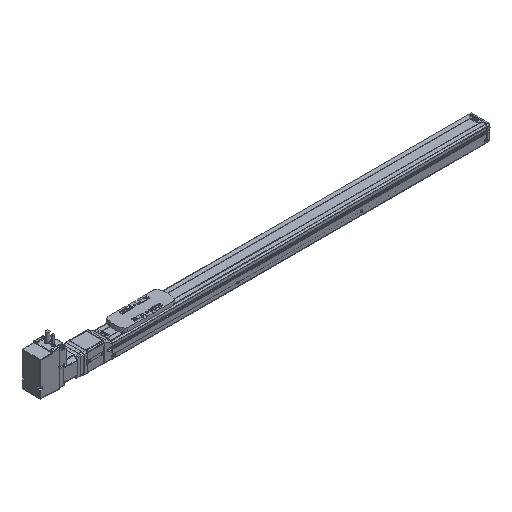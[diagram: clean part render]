
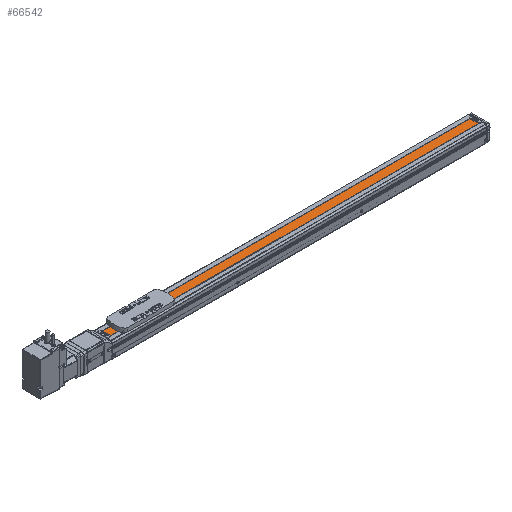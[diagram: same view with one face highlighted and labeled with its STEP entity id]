
A CAD part, isometric view. The second image highlights one B-rep face of the part: STEP entity #66542.
In plain terms, the highlighted planar face has unit normal (0, 0, 1) as drawn and (0, 1, 0) by its records, which use the part's own axes.
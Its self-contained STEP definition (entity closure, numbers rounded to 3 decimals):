
#66250 = PLANE('',#66251);
#66251 = AXIS2_PLACEMENT_3D('',#66252,#66253,#66254);
#66252 = CARTESIAN_POINT('',(-16.5,13.8,-10.));
#66253 = DIRECTION('',(1.,0.,0.));
#66254 = DIRECTION('',(0.,0.,-1.));
#66306 = PLANE('',#66307);
#66307 = AXIS2_PLACEMENT_3D('',#66308,#66309,#66310);
#66308 = CARTESIAN_POINT('',(-819.5,13.8,10.));
#66309 = DIRECTION('',(-1.,0.,0.));
#66310 = DIRECTION('',(0.,0.,1.));
#66542 = ADVANCED_FACE('',(#66543),#66557,.T.);
#66543 = FACE_BOUND('',#66544,.T.);
#66544 = EDGE_LOOP('',(#66545,#66580,#66603,#66631));
#66545 = ORIENTED_EDGE('',*,*,#66546,.T.);
#66546 = EDGE_CURVE('',#66547,#66549,#66551,.T.);
#66547 = VERTEX_POINT('',#66548);
#66548 = CARTESIAN_POINT('',(-819.5,12.3,9.2));
#66549 = VERTEX_POINT('',#66550);
#66550 = CARTESIAN_POINT('',(-16.5,12.3,9.2));
#66551 = SURFACE_CURVE('',#66552,(#66556,#66568),.PCURVE_S1.);
#66552 = LINE('',#66553,#66554);
#66553 = CARTESIAN_POINT('',(-826.5,12.3,9.2));
#66554 = VECTOR('',#66555,1.);
#66555 = DIRECTION('',(1.,0.,0.));
#66556 = PCURVE('',#66557,#66562);
#66557 = PLANE('',#66558);
#66558 = AXIS2_PLACEMENT_3D('',#66559,#66560,#66561);
#66559 = CARTESIAN_POINT('',(-826.5,12.3,-18.034));
#66560 = DIRECTION('',(0.,1.,0.));
#66561 = DIRECTION('',(0.,-0.,1.));
#66562 = DEFINITIONAL_REPRESENTATION('',(#66563),#66567);
#66563 = LINE('',#66564,#66565);
#66564 = CARTESIAN_POINT('',(27.234,0.));
#66565 = VECTOR('',#66566,1.);
#66566 = DIRECTION('',(0.,1.));
#66567 = ( GEOMETRIC_REPRESENTATION_CONTEXT(2) 
PARAMETRIC_REPRESENTATION_CONTEXT() REPRESENTATION_CONTEXT('2D SPACE',''
  ) );
#66568 = PCURVE('',#66569,#66574);
#66569 = PLANE('',#66570);
#66570 = AXIS2_PLACEMENT_3D('',#66571,#66572,#66573);
#66571 = CARTESIAN_POINT('',(-826.5,11.1,9.2));
#66572 = DIRECTION('',(0.,0.,-1.));
#66573 = DIRECTION('',(0.,1.,0.));
#66574 = DEFINITIONAL_REPRESENTATION('',(#66575),#66579);
#66575 = LINE('',#66576,#66577);
#66576 = CARTESIAN_POINT('',(1.2,0.));
#66577 = VECTOR('',#66578,1.);
#66578 = DIRECTION('',(0.,1.));
#66579 = ( GEOMETRIC_REPRESENTATION_CONTEXT(2) 
PARAMETRIC_REPRESENTATION_CONTEXT() REPRESENTATION_CONTEXT('2D SPACE',''
  ) );
#66580 = ORIENTED_EDGE('',*,*,#66581,.T.);
#66581 = EDGE_CURVE('',#66549,#66582,#66584,.T.);
#66582 = VERTEX_POINT('',#66583);
#66583 = CARTESIAN_POINT('',(-16.5,12.3,-9.2));
#66584 = SURFACE_CURVE('',#66585,(#66589,#66596),.PCURVE_S1.);
#66585 = LINE('',#66586,#66587);
#66586 = CARTESIAN_POINT('',(-16.5,12.3,-18.034));
#66587 = VECTOR('',#66588,1.);
#66588 = DIRECTION('',(0.,0.,-1.));
#66589 = PCURVE('',#66557,#66590);
#66590 = DEFINITIONAL_REPRESENTATION('',(#66591),#66595);
#66591 = LINE('',#66592,#66593);
#66592 = CARTESIAN_POINT('',(0.,810.));
#66593 = VECTOR('',#66594,1.);
#66594 = DIRECTION('',(-1.,0.));
#66595 = ( GEOMETRIC_REPRESENTATION_CONTEXT(2) 
PARAMETRIC_REPRESENTATION_CONTEXT() REPRESENTATION_CONTEXT('2D SPACE',''
  ) );
#66596 = PCURVE('',#66250,#66597);
#66597 = DEFINITIONAL_REPRESENTATION('',(#66598),#66602);
#66598 = LINE('',#66599,#66600);
#66599 = CARTESIAN_POINT('',(8.034,-1.5));
#66600 = VECTOR('',#66601,1.);
#66601 = DIRECTION('',(1.,0.));
#66602 = ( GEOMETRIC_REPRESENTATION_CONTEXT(2) 
PARAMETRIC_REPRESENTATION_CONTEXT() REPRESENTATION_CONTEXT('2D SPACE',''
  ) );
#66603 = ORIENTED_EDGE('',*,*,#66604,.F.);
#66604 = EDGE_CURVE('',#66605,#66582,#66607,.T.);
#66605 = VERTEX_POINT('',#66606);
#66606 = CARTESIAN_POINT('',(-819.5,12.3,-9.2));
#66607 = SURFACE_CURVE('',#66608,(#66612,#66619),.PCURVE_S1.);
#66608 = LINE('',#66609,#66610);
#66609 = CARTESIAN_POINT('',(-826.5,12.3,-9.2));
#66610 = VECTOR('',#66611,1.);
#66611 = DIRECTION('',(1.,0.,0.));
#66612 = PCURVE('',#66557,#66613);
#66613 = DEFINITIONAL_REPRESENTATION('',(#66614),#66618);
#66614 = LINE('',#66615,#66616);
#66615 = CARTESIAN_POINT('',(8.834,0.));
#66616 = VECTOR('',#66617,1.);
#66617 = DIRECTION('',(0.,1.));
#66618 = ( GEOMETRIC_REPRESENTATION_CONTEXT(2) 
PARAMETRIC_REPRESENTATION_CONTEXT() REPRESENTATION_CONTEXT('2D SPACE',''
  ) );
#66619 = PCURVE('',#66620,#66625);
#66620 = PLANE('',#66621);
#66621 = AXIS2_PLACEMENT_3D('',#66622,#66623,#66624);
#66622 = CARTESIAN_POINT('',(-826.5,12.3,-9.2));
#66623 = DIRECTION('',(0.,0.,1.));
#66624 = DIRECTION('',(0.,-1.,0.));
#66625 = DEFINITIONAL_REPRESENTATION('',(#66626),#66630);
#66626 = LINE('',#66627,#66628);
#66627 = CARTESIAN_POINT('',(0.,0.));
#66628 = VECTOR('',#66629,1.);
#66629 = DIRECTION('',(0.,1.));
#66630 = ( GEOMETRIC_REPRESENTATION_CONTEXT(2) 
PARAMETRIC_REPRESENTATION_CONTEXT() REPRESENTATION_CONTEXT('2D SPACE',''
  ) );
#66631 = ORIENTED_EDGE('',*,*,#66632,.T.);
#66632 = EDGE_CURVE('',#66605,#66547,#66633,.T.);
#66633 = SURFACE_CURVE('',#66634,(#66638,#66645),.PCURVE_S1.);
#66634 = LINE('',#66635,#66636);
#66635 = CARTESIAN_POINT('',(-819.5,12.3,-18.034));
#66636 = VECTOR('',#66637,1.);
#66637 = DIRECTION('',(0.,0.,1.));
#66638 = PCURVE('',#66557,#66639);
#66639 = DEFINITIONAL_REPRESENTATION('',(#66640),#66644);
#66640 = LINE('',#66641,#66642);
#66641 = CARTESIAN_POINT('',(0.,7.));
#66642 = VECTOR('',#66643,1.);
#66643 = DIRECTION('',(1.,0.));
#66644 = ( GEOMETRIC_REPRESENTATION_CONTEXT(2) 
PARAMETRIC_REPRESENTATION_CONTEXT() REPRESENTATION_CONTEXT('2D SPACE',''
  ) );
#66645 = PCURVE('',#66306,#66646);
#66646 = DEFINITIONAL_REPRESENTATION('',(#66647),#66651);
#66647 = LINE('',#66648,#66649);
#66648 = CARTESIAN_POINT('',(-28.034,-1.5));
#66649 = VECTOR('',#66650,1.);
#66650 = DIRECTION('',(1.,0.));
#66651 = ( GEOMETRIC_REPRESENTATION_CONTEXT(2) 
PARAMETRIC_REPRESENTATION_CONTEXT() REPRESENTATION_CONTEXT('2D SPACE',''
  ) );
